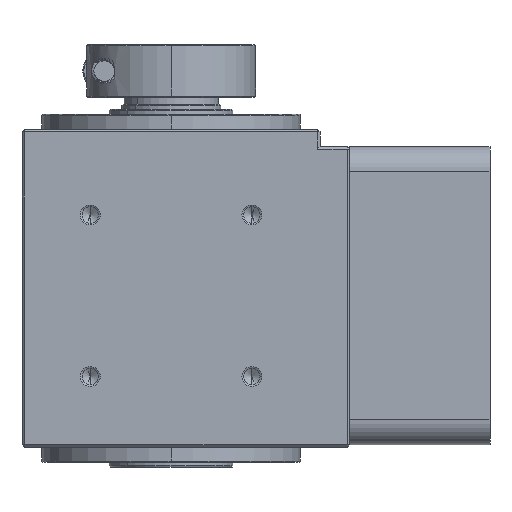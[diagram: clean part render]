
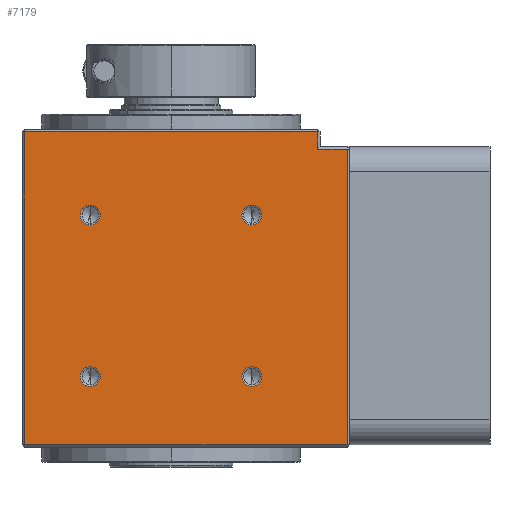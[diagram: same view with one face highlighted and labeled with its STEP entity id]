
A CAD part, left-side view. The second image highlights one B-rep face of the part: STEP entity #7179.
In plain terms, the highlighted planar face has unit normal (-1, 0, 0) as drawn and (1, 0, 0) by its records, which use the part's own axes.
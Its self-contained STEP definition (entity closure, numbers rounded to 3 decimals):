
#61 = DIRECTION ( 'NONE',  ( 0., 0., -1. ) ) ;
#65 = EDGE_LOOP ( 'NONE', ( #23714, #9244 ) ) ;
#262 = CIRCLE ( 'NONE', #34936, 2. ) ;
#564 = CARTESIAN_POINT ( 'NONE',  ( 30., -16.263, 52.763 ) ) ;
#1404 = EDGE_CURVE ( 'NONE', #29354, #33748, #17276, .T. ) ;
#2036 = DIRECTION ( 'NONE',  ( 0., 0., -1. ) ) ;
#2392 = VECTOR ( 'NONE', #38506, 1000. ) ;
#2431 = ORIENTED_EDGE ( 'NONE', *, *, #21282, .T. ) ;
#2483 = CARTESIAN_POINT ( 'NONE',  ( 30., -16.263, 52.763 ) ) ;
#2505 = VERTEX_POINT ( 'NONE', #12384 ) ;
#3057 = FACE_BOUND ( 'NONE', #35933, .T. ) ;
#3209 = CARTESIAN_POINT ( 'NONE',  ( 30., -16.263, 18.237 ) ) ;
#3232 = VERTEX_POINT ( 'NONE', #27523 ) ;
#3795 = DIRECTION ( 'NONE',  ( 0., 1., 0. ) ) ;
#4051 = EDGE_CURVE ( 'NONE', #33249, #8867, #7566, .T. ) ;
#4300 = AXIS2_PLACEMENT_3D ( 'NONE', #564, #25164, #30819 ) ;
#4360 = EDGE_LOOP ( 'NONE', ( #34234, #23284, #2431, #6770, #24486, #7688 ) ) ;
#4995 = CARTESIAN_POINT ( 'NONE',  ( 30., 16.263, 52.763 ) ) ;
#5058 = EDGE_CURVE ( 'NONE', #7242, #3232, #25297, .T. ) ;
#5588 = DIRECTION ( 'NONE',  ( 0., 0., -1. ) ) ;
#5959 = FACE_BOUND ( 'NONE', #22443, .T. ) ;
#6115 = CARTESIAN_POINT ( 'NONE',  ( 30., 16.263, 18.237 ) ) ;
#6506 = CARTESIAN_POINT ( 'NONE',  ( 30., 16.263, 20.237 ) ) ;
#6770 = ORIENTED_EDGE ( 'NONE', *, *, #5058, .T. ) ;
#6798 = VERTEX_POINT ( 'NONE', #18924 ) ;
#7179 = ADVANCED_FACE ( 'NONE', ( #30515, #3057, #12707, #37756, #5959 ), #14154, .F. ) ;
#7242 = VERTEX_POINT ( 'NONE', #39435 ) ;
#7443 = EDGE_CURVE ( 'NONE', #3232, #13503, #19477, .T. ) ;
#7566 = CIRCLE ( 'NONE', #11560, 2. ) ;
#7688 = ORIENTED_EDGE ( 'NONE', *, *, #37137, .T. ) ;
#8459 = DIRECTION ( 'NONE',  ( 0., 0., -1. ) ) ;
#8529 = DIRECTION ( 'NONE',  ( 1., 0., 0. ) ) ;
#8563 = CARTESIAN_POINT ( 'NONE',  ( 30., -30., 7. ) ) ;
#8857 = DIRECTION ( 'NONE',  ( 1., 0., 0. ) ) ;
#8867 = VERTEX_POINT ( 'NONE', #3209 ) ;
#8890 = CIRCLE ( 'NONE', #35500, 2. ) ;
#9244 = ORIENTED_EDGE ( 'NONE', *, *, #27943, .F. ) ;
#9428 = VECTOR ( 'NONE', #10481, 1000. ) ;
#10076 = DIRECTION ( 'NONE',  ( 1., 0., 0. ) ) ;
#10481 = DIRECTION ( 'NONE',  ( 0., 0., 1. ) ) ;
#10611 = LINE ( 'NONE', #26107, #2392 ) ;
#10725 = CIRCLE ( 'NONE', #4300, 2. ) ;
#11560 = AXIS2_PLACEMENT_3D ( 'NONE', #28646, #10076, #34948 ) ;
#11701 = DIRECTION ( 'NONE',  ( -1., 0., 0. ) ) ;
#12384 = CARTESIAN_POINT ( 'NONE',  ( 30., 16.263, 54.763 ) ) ;
#12656 = EDGE_CURVE ( 'NONE', #34978, #25142, #12892, .T. ) ;
#12707 = FACE_BOUND ( 'NONE', #65, .T. ) ;
#12892 = CIRCLE ( 'NONE', #28201, 2. ) ;
#13006 = ORIENTED_EDGE ( 'NONE', *, *, #4051, .F. ) ;
#13036 = AXIS2_PLACEMENT_3D ( 'NONE', #29481, #26754, #2036 ) ;
#13154 = LINE ( 'NONE', #22233, #21835 ) ;
#13503 = VERTEX_POINT ( 'NONE', #25519 ) ;
#14154 = PLANE ( 'NONE',  #31998 ) ;
#14632 = CARTESIAN_POINT ( 'NONE',  ( 30., -16.263, 20.237 ) ) ;
#14658 = CARTESIAN_POINT ( 'NONE',  ( 30., -36., 66.5 ) ) ;
#15109 = AXIS2_PLACEMENT_3D ( 'NONE', #2483, #33425, #5588 ) ;
#15566 = CIRCLE ( 'NONE', #15109, 2. ) ;
#16183 = CARTESIAN_POINT ( 'NONE',  ( 30., -29.5, 7. ) ) ;
#16212 = CIRCLE ( 'NONE', #13036, 2. ) ;
#17276 = LINE ( 'NONE', #8563, #38478 ) ;
#17540 = AXIS2_PLACEMENT_3D ( 'NONE', #4995, #26478, #35273 ) ;
#17780 = DIRECTION ( 'NONE',  ( 0., -1., 0. ) ) ;
#17811 = EDGE_CURVE ( 'NONE', #25142, #34978, #16212, .T. ) ;
#17817 = CARTESIAN_POINT ( 'NONE',  ( 30., 16.263, 52.763 ) ) ;
#18924 = CARTESIAN_POINT ( 'NONE',  ( 30., 16.263, 50.763 ) ) ;
#19204 = EDGE_CURVE ( 'NONE', #8867, #33249, #8890, .T. ) ;
#19477 = LINE ( 'NONE', #14658, #34844 ) ;
#20850 = CARTESIAN_POINT ( 'NONE',  ( 30., -16.263, 22.237 ) ) ;
#20922 = DIRECTION ( 'NONE',  ( 0., 0., -1. ) ) ;
#21027 = LINE ( 'NONE', #26946, #35947 ) ;
#21282 = EDGE_CURVE ( 'NONE', #24561, #7242, #13154, .T. ) ;
#21332 = ORIENTED_EDGE ( 'NONE', *, *, #17811, .F. ) ;
#21413 = DIRECTION ( 'NONE',  ( 0., 0., -1. ) ) ;
#21618 = EDGE_CURVE ( 'NONE', #6798, #2505, #24209, .T. ) ;
#21835 = VECTOR ( 'NONE', #3795, 1000. ) ;
#22233 = CARTESIAN_POINT ( 'NONE',  ( 30., 30., 3.5 ) ) ;
#22443 = EDGE_LOOP ( 'NONE', ( #24469, #13006 ) ) ;
#22755 = EDGE_LOOP ( 'NONE', ( #24195, #36727 ) ) ;
#23284 = ORIENTED_EDGE ( 'NONE', *, *, #33902, .T. ) ;
#23714 = ORIENTED_EDGE ( 'NONE', *, *, #21618, .F. ) ;
#24195 = ORIENTED_EDGE ( 'NONE', *, *, #30462, .F. ) ;
#24209 = CIRCLE ( 'NONE', #17540, 2. ) ;
#24469 = ORIENTED_EDGE ( 'NONE', *, *, #19204, .F. ) ;
#24486 = ORIENTED_EDGE ( 'NONE', *, *, #7443, .T. ) ;
#24561 = VERTEX_POINT ( 'NONE', #28332 ) ;
#25142 = VERTEX_POINT ( 'NONE', #6115 ) ;
#25164 = DIRECTION ( 'NONE',  ( 1., 0., 0. ) ) ;
#25297 = LINE ( 'NONE', #34956, #9428 ) ;
#25519 = CARTESIAN_POINT ( 'NONE',  ( 30., -35.5, 66.5 ) ) ;
#25592 = VERTEX_POINT ( 'NONE', #29122 ) ;
#26107 = CARTESIAN_POINT ( 'NONE',  ( 30., -29.5, 70. ) ) ;
#26478 = DIRECTION ( 'NONE',  ( 1., 0., 0. ) ) ;
#26754 = DIRECTION ( 'NONE',  ( 1., 0., 0. ) ) ;
#26946 = CARTESIAN_POINT ( 'NONE',  ( 30., -35.5, 70. ) ) ;
#27523 = CARTESIAN_POINT ( 'NONE',  ( 30., 29.5, 66.5 ) ) ;
#27943 = EDGE_CURVE ( 'NONE', #2505, #6798, #262, .T. ) ;
#28007 = DIRECTION ( 'NONE',  ( 1., 0., 0. ) ) ;
#28119 = CARTESIAN_POINT ( 'NONE',  ( 30., -35.5, 7. ) ) ;
#28201 = AXIS2_PLACEMENT_3D ( 'NONE', #6506, #28007, #21413 ) ;
#28329 = CARTESIAN_POINT ( 'NONE',  ( 30., -16.263, 50.763 ) ) ;
#28332 = CARTESIAN_POINT ( 'NONE',  ( 30., -29.5, 3.5 ) ) ;
#28646 = CARTESIAN_POINT ( 'NONE',  ( 30., -16.263, 20.237 ) ) ;
#29122 = CARTESIAN_POINT ( 'NONE',  ( 30., -16.263, 54.763 ) ) ;
#29354 = VERTEX_POINT ( 'NONE', #28119 ) ;
#29481 = CARTESIAN_POINT ( 'NONE',  ( 30., 16.263, 20.237 ) ) ;
#29934 = EDGE_CURVE ( 'NONE', #25592, #31519, #15566, .T. ) ;
#30462 = EDGE_CURVE ( 'NONE', #31519, #25592, #10725, .T. ) ;
#30515 = FACE_OUTER_BOUND ( 'NONE', #4360, .T. ) ;
#30819 = DIRECTION ( 'NONE',  ( 0., 0., -1. ) ) ;
#31519 = VERTEX_POINT ( 'NONE', #28329 ) ;
#31998 = AXIS2_PLACEMENT_3D ( 'NONE', #35683, #11701, #35951 ) ;
#33179 = DIRECTION ( 'NONE',  ( 0., 1., 0. ) ) ;
#33249 = VERTEX_POINT ( 'NONE', #20850 ) ;
#33425 = DIRECTION ( 'NONE',  ( 1., 0., 0. ) ) ;
#33723 = ORIENTED_EDGE ( 'NONE', *, *, #12656, .F. ) ;
#33748 = VERTEX_POINT ( 'NONE', #16183 ) ;
#33898 = CARTESIAN_POINT ( 'NONE',  ( 30., 16.263, 22.237 ) ) ;
#33902 = EDGE_CURVE ( 'NONE', #33748, #24561, #10611, .T. ) ;
#34234 = ORIENTED_EDGE ( 'NONE', *, *, #1404, .T. ) ;
#34844 = VECTOR ( 'NONE', #17780, 1000. ) ;
#34936 = AXIS2_PLACEMENT_3D ( 'NONE', #17817, #8529, #20922 ) ;
#34948 = DIRECTION ( 'NONE',  ( 0., 0., -1. ) ) ;
#34956 = CARTESIAN_POINT ( 'NONE',  ( 30., 29.5, 70. ) ) ;
#34978 = VERTEX_POINT ( 'NONE', #33898 ) ;
#35273 = DIRECTION ( 'NONE',  ( 0., 0., -1. ) ) ;
#35500 = AXIS2_PLACEMENT_3D ( 'NONE', #14632, #8857, #8459 ) ;
#35683 = CARTESIAN_POINT ( 'NONE',  ( 30., -30., 70. ) ) ;
#35933 = EDGE_LOOP ( 'NONE', ( #21332, #33723 ) ) ;
#35947 = VECTOR ( 'NONE', #61, 1000. ) ;
#35951 = DIRECTION ( 'NONE',  ( 0., -1., 0. ) ) ;
#36727 = ORIENTED_EDGE ( 'NONE', *, *, #29934, .F. ) ;
#37137 = EDGE_CURVE ( 'NONE', #13503, #29354, #21027, .T. ) ;
#37756 = FACE_BOUND ( 'NONE', #22755, .T. ) ;
#38478 = VECTOR ( 'NONE', #33179, 1000. ) ;
#38506 = DIRECTION ( 'NONE',  ( 0., 0., -1. ) ) ;
#39435 = CARTESIAN_POINT ( 'NONE',  ( 30., 29.5, 3.5 ) ) ;
